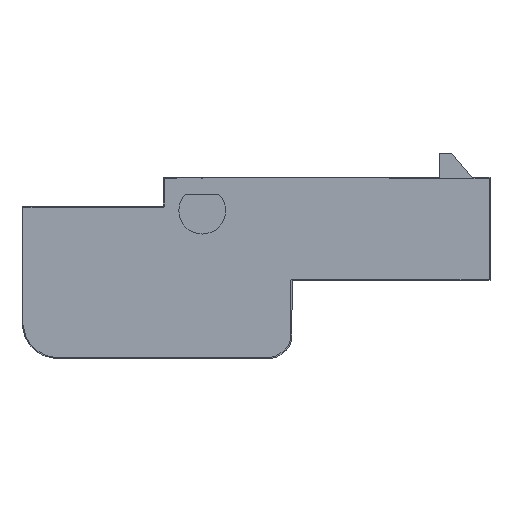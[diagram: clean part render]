
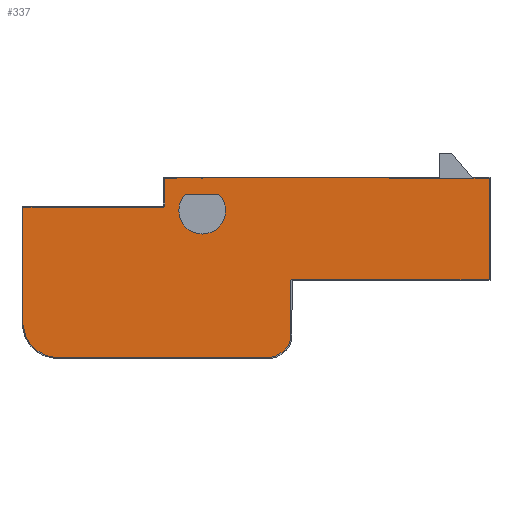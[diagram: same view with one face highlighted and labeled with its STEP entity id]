
A CAD part, front view. The second image highlights one B-rep face of the part: STEP entity #337.
In plain terms, the highlighted planar face has unit normal (0, -1, 0).
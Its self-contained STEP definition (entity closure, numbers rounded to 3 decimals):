
#19=DIRECTION('',(-1.0,0.0,0.0));
#20=VECTOR('',#19,13.52);
#21=CARTESIAN_POINT('',(3.95,-10.375,-30.25));
#22=LINE('',#21,#20);
#23=VERTEX_POINT('',#21);
#24=CARTESIAN_POINT('',(-9.57,-10.375,-30.25));
#25=VERTEX_POINT('',#24);
#26=EDGE_CURVE('',#23,#25,#22,.T.);
#27=ORIENTED_EDGE('',*,*,#26,.T.);
#28=DIRECTION('',(0.0,0.0,-1.0));
#29=VECTOR('',#28,1.16);
#30=LINE('',#24,#29);
#31=CARTESIAN_POINT('',(-9.57,-10.375,-31.41));
#32=VERTEX_POINT('',#31);
#33=EDGE_CURVE('',#25,#32,#30,.T.);
#34=ORIENTED_EDGE('',*,*,#33,.T.);
#35=DIRECTION('',(-0.707,0.0,-0.707));
#36=VECTOR('',#35,0.057);
#37=LINE('',#31,#36);
#38=CARTESIAN_POINT('',(-9.61,-10.375,-31.45));
#39=VERTEX_POINT('',#38);
#40=EDGE_CURVE('',#32,#39,#37,.T.);
#41=ORIENTED_EDGE('',*,*,#40,.T.);
#42=VECTOR('',#19,5.86);
#43=LINE('',#38,#42);
#44=CARTESIAN_POINT('',(-15.47,-10.375,-31.45));
#45=VERTEX_POINT('',#44);
#46=EDGE_CURVE('',#39,#45,#43,.T.);
#47=ORIENTED_EDGE('',*,*,#46,.T.);
#48=VECTOR('',#28,4.88);
#49=LINE('',#44,#48);
#50=CARTESIAN_POINT('',(-15.47,-10.375,-36.33));
#51=VERTEX_POINT('',#50);
#52=EDGE_CURVE('',#45,#51,#49,.T.);
#53=ORIENTED_EDGE('',*,*,#52,.T.);
#54=DIRECTION('',(0.233,0.0,-0.972));
#55=VECTOR('',#54,0.514);
#56=LINE('',#50,#55);
#57=CARTESIAN_POINT('',(-15.35,-10.375,-36.83));
#58=VERTEX_POINT('',#57);
#59=EDGE_CURVE('',#51,#58,#56,.T.);
#60=ORIENTED_EDGE('',*,*,#59,.T.);
#61=DIRECTION('',(0.471,0.0,-0.882));
#62=VECTOR('',#61,0.34);
#63=LINE('',#57,#62);
#64=CARTESIAN_POINT('',(-15.19,-10.375,-37.13));
#65=VERTEX_POINT('',#64);
#66=EDGE_CURVE('',#58,#65,#63,.T.);
#67=ORIENTED_EDGE('',*,*,#66,.T.);
#68=DIRECTION('',(0.707,0.0,-0.707));
#69=VECTOR('',#68,0.424);
#70=LINE('',#64,#69);
#71=CARTESIAN_POINT('',(-14.89,-10.375,-37.43));
#72=VERTEX_POINT('',#71);
#73=EDGE_CURVE('',#65,#72,#70,.T.);
#74=ORIENTED_EDGE('',*,*,#73,.T.);
#75=DIRECTION('',(0.874,0.0,-0.486));
#76=VECTOR('',#75,0.412);
#77=LINE('',#71,#76);
#78=CARTESIAN_POINT('',(-14.53,-10.375,-37.63));
#79=VERTEX_POINT('',#78);
#80=EDGE_CURVE('',#72,#79,#77,.T.);
#81=ORIENTED_EDGE('',*,*,#80,.T.);
#82=DIRECTION('',(0.977,0.0,-0.212));
#83=VECTOR('',#82,0.471);
#84=LINE('',#78,#83);
#85=CARTESIAN_POINT('',(-14.07,-10.375,-37.73));
#86=VERTEX_POINT('',#85);
#87=EDGE_CURVE('',#79,#86,#84,.T.);
#88=ORIENTED_EDGE('',*,*,#87,.T.);
#89=DIRECTION('',(1.0,0.0,0.0));
#90=VECTOR('',#89,8.84);
#91=LINE('',#85,#90);
#92=CARTESIAN_POINT('',(-5.23,-10.375,-37.73));
#93=VERTEX_POINT('',#92);
#94=EDGE_CURVE('',#86,#93,#91,.T.);
#95=ORIENTED_EDGE('',*,*,#94,.T.);
#96=DIRECTION('',(0.981,0.0,0.196));
#97=VECTOR('',#96,0.306);
#98=LINE('',#92,#97);
#99=CARTESIAN_POINT('',(-4.93,-10.375,-37.67));
#100=VERTEX_POINT('',#99);
#101=EDGE_CURVE('',#93,#100,#98,.T.);
#102=ORIENTED_EDGE('',*,*,#101,.T.);
#103=DIRECTION('',(0.825,0.0,0.565));
#104=VECTOR('',#103,0.46);
#105=LINE('',#99,#104);
#106=CARTESIAN_POINT('',(-4.55,-10.375,-37.41));
#107=VERTEX_POINT('',#106);
#108=EDGE_CURVE('',#100,#107,#105,.T.);
#109=ORIENTED_EDGE('',*,*,#108,.T.);
#110=DIRECTION('',(0.614,0.0,0.789));
#111=VECTOR('',#110,0.228);
#112=LINE('',#106,#111);
#113=CARTESIAN_POINT('',(-4.41,-10.375,-37.23));
#114=VERTEX_POINT('',#113);
#115=EDGE_CURVE('',#107,#114,#112,.T.);
#116=ORIENTED_EDGE('',*,*,#115,.T.);
#117=DIRECTION('',(0.316,0.0,0.949));
#118=VECTOR('',#117,0.316);
#119=LINE('',#113,#118);
#120=CARTESIAN_POINT('',(-4.31,-10.375,-36.93));
#121=VERTEX_POINT('',#120);
#122=EDGE_CURVE('',#114,#121,#119,.T.);
#123=ORIENTED_EDGE('',*,*,#122,.T.);
#124=DIRECTION('',(0.0,0.0,1.0));
#125=VECTOR('',#124,2.42);
#126=LINE('',#120,#125);
#127=CARTESIAN_POINT('',(-4.31,-10.375,-34.51));
#128=VERTEX_POINT('',#127);
#129=EDGE_CURVE('',#121,#128,#126,.T.);
#130=ORIENTED_EDGE('',*,*,#129,.T.);
#131=DIRECTION('',(0.707,0.0,0.707));
#132=VECTOR('',#131,0.057);
#133=LINE('',#127,#132);
#134=CARTESIAN_POINT('',(-4.27,-10.375,-34.47));
#135=VERTEX_POINT('',#134);
#136=EDGE_CURVE('',#128,#135,#133,.T.);
#137=ORIENTED_EDGE('',*,*,#136,.T.);
#138=VECTOR('',#89,8.22);
#139=LINE('',#134,#138);
#140=CARTESIAN_POINT('',(3.95,-10.375,-34.47));
#141=VERTEX_POINT('',#140);
#142=EDGE_CURVE('',#135,#141,#139,.T.);
#143=ORIENTED_EDGE('',*,*,#142,.T.);
#144=VECTOR('',#28,4.22);
#145=LINE('',#21,#144);
#146=EDGE_CURVE('',#23,#141,#145,.T.);
#147=ORIENTED_EDGE('',*,*,#146,.F.);
#148=EDGE_LOOP('',(#27,#34,#41,#47,#53,#60,#67,#74,#81,#88,#95,#102,#109,#116,#123,#130,#137,#143,#147));
#149=FACE_OUTER_BOUND('',#148,.T.);
#150=DIRECTION('',(0.634,0.0,-0.773));
#151=VECTOR('',#150,0.191);
#152=CARTESIAN_POINT('',(-7.311,-10.375,-30.911));
#153=LINE('',#152,#151);
#154=VERTEX_POINT('',#152);
#155=CARTESIAN_POINT('',(-7.189,-10.375,-31.058));
#156=VERTEX_POINT('',#155);
#157=EDGE_CURVE('',#154,#156,#153,.T.);
#158=ORIENTED_EDGE('',*,*,#157,.T.);
#159=DIRECTION('',(0.471,0.0,-0.882));
#160=VECTOR('',#159,0.191);
#161=LINE('',#155,#160);
#162=CARTESIAN_POINT('',(-7.099,-10.375,-31.227));
#163=VERTEX_POINT('',#162);
#164=EDGE_CURVE('',#156,#163,#161,.T.);
#165=ORIENTED_EDGE('',*,*,#164,.T.);
#166=DIRECTION('',(0.29,0.0,-0.957));
#167=VECTOR('',#166,0.191);
#168=LINE('',#162,#167);
#169=CARTESIAN_POINT('',(-7.044,-10.375,-31.41));
#170=VERTEX_POINT('',#169);
#171=EDGE_CURVE('',#163,#170,#168,.T.);
#172=ORIENTED_EDGE('',*,*,#171,.T.);
#173=DIRECTION('',(0.098,0.0,-0.995));
#174=VECTOR('',#173,0.191);
#175=LINE('',#169,#174);
#176=CARTESIAN_POINT('',(-7.025,-10.375,-31.6));
#177=VERTEX_POINT('',#176);
#178=EDGE_CURVE('',#170,#177,#175,.T.);
#179=ORIENTED_EDGE('',*,*,#178,.T.);
#180=DIRECTION('',(-0.098,0.0,-0.995));
#181=VECTOR('',#180,0.191);
#182=LINE('',#176,#181);
#183=CARTESIAN_POINT('',(-7.044,-10.375,-31.79));
#184=VERTEX_POINT('',#183);
#185=EDGE_CURVE('',#177,#184,#182,.T.);
#186=ORIENTED_EDGE('',*,*,#185,.T.);
#187=DIRECTION('',(-0.29,0.0,-0.957));
#188=VECTOR('',#187,0.191);
#189=LINE('',#183,#188);
#190=CARTESIAN_POINT('',(-7.099,-10.375,-31.973));
#191=VERTEX_POINT('',#190);
#192=EDGE_CURVE('',#184,#191,#189,.T.);
#193=ORIENTED_EDGE('',*,*,#192,.T.);
#194=DIRECTION('',(-0.471,0.0,-0.882));
#195=VECTOR('',#194,0.191);
#196=LINE('',#190,#195);
#197=CARTESIAN_POINT('',(-7.189,-10.375,-32.142));
#198=VERTEX_POINT('',#197);
#199=EDGE_CURVE('',#191,#198,#196,.T.);
#200=ORIENTED_EDGE('',*,*,#199,.T.);
#201=DIRECTION('',(-0.634,0.0,-0.773));
#202=VECTOR('',#201,0.191);
#203=LINE('',#197,#202);
#204=CARTESIAN_POINT('',(-7.311,-10.375,-32.289));
#205=VERTEX_POINT('',#204);
#206=EDGE_CURVE('',#198,#205,#203,.T.);
#207=ORIENTED_EDGE('',*,*,#206,.T.);
#208=DIRECTION('',(-0.773,0.0,-0.634));
#209=VECTOR('',#208,0.191);
#210=LINE('',#204,#209);
#211=CARTESIAN_POINT('',(-7.458,-10.375,-32.411));
#212=VERTEX_POINT('',#211);
#213=EDGE_CURVE('',#205,#212,#210,.T.);
#214=ORIENTED_EDGE('',*,*,#213,.T.);
#215=DIRECTION('',(-0.882,0.0,-0.471));
#216=VECTOR('',#215,0.191);
#217=LINE('',#211,#216);
#218=CARTESIAN_POINT('',(-7.627,-10.375,-32.501));
#219=VERTEX_POINT('',#218);
#220=EDGE_CURVE('',#212,#219,#217,.T.);
#221=ORIENTED_EDGE('',*,*,#220,.T.);
#222=DIRECTION('',(-0.957,0.0,-0.29));
#223=VECTOR('',#222,0.191);
#224=LINE('',#218,#223);
#225=CARTESIAN_POINT('',(-7.81,-10.375,-32.556));
#226=VERTEX_POINT('',#225);
#227=EDGE_CURVE('',#219,#226,#224,.T.);
#228=ORIENTED_EDGE('',*,*,#227,.T.);
#229=DIRECTION('',(-0.995,0.0,-0.098));
#230=VECTOR('',#229,0.191);
#231=LINE('',#225,#230);
#232=CARTESIAN_POINT('',(-8.0,-10.375,-32.575));
#233=VERTEX_POINT('',#232);
#234=EDGE_CURVE('',#226,#233,#231,.T.);
#235=ORIENTED_EDGE('',*,*,#234,.T.);
#236=DIRECTION('',(-0.995,0.0,0.098));
#237=VECTOR('',#236,0.191);
#238=LINE('',#232,#237);
#239=CARTESIAN_POINT('',(-8.19,-10.375,-32.556));
#240=VERTEX_POINT('',#239);
#241=EDGE_CURVE('',#233,#240,#238,.T.);
#242=ORIENTED_EDGE('',*,*,#241,.T.);
#243=DIRECTION('',(-0.957,0.0,0.29));
#244=VECTOR('',#243,0.191);
#245=LINE('',#239,#244);
#246=CARTESIAN_POINT('',(-8.373,-10.375,-32.501));
#247=VERTEX_POINT('',#246);
#248=EDGE_CURVE('',#240,#247,#245,.T.);
#249=ORIENTED_EDGE('',*,*,#248,.T.);
#250=DIRECTION('',(-0.882,0.0,0.471));
#251=VECTOR('',#250,0.191);
#252=LINE('',#246,#251);
#253=CARTESIAN_POINT('',(-8.542,-10.375,-32.411));
#254=VERTEX_POINT('',#253);
#255=EDGE_CURVE('',#247,#254,#252,.T.);
#256=ORIENTED_EDGE('',*,*,#255,.T.);
#257=DIRECTION('',(-0.773,0.0,0.634));
#258=VECTOR('',#257,0.191);
#259=LINE('',#253,#258);
#260=CARTESIAN_POINT('',(-8.689,-10.375,-32.289));
#261=VERTEX_POINT('',#260);
#262=EDGE_CURVE('',#254,#261,#259,.T.);
#263=ORIENTED_EDGE('',*,*,#262,.T.);
#264=DIRECTION('',(-0.634,0.0,0.773));
#265=VECTOR('',#264,0.191);
#266=LINE('',#260,#265);
#267=CARTESIAN_POINT('',(-8.811,-10.375,-32.142));
#268=VERTEX_POINT('',#267);
#269=EDGE_CURVE('',#261,#268,#266,.T.);
#270=ORIENTED_EDGE('',*,*,#269,.T.);
#271=DIRECTION('',(-0.471,0.0,0.882));
#272=VECTOR('',#271,0.191);
#273=LINE('',#267,#272);
#274=CARTESIAN_POINT('',(-8.901,-10.375,-31.973));
#275=VERTEX_POINT('',#274);
#276=EDGE_CURVE('',#268,#275,#273,.T.);
#277=ORIENTED_EDGE('',*,*,#276,.T.);
#278=DIRECTION('',(-0.29,0.0,0.957));
#279=VECTOR('',#278,0.191);
#280=LINE('',#274,#279);
#281=CARTESIAN_POINT('',(-8.956,-10.375,-31.79));
#282=VERTEX_POINT('',#281);
#283=EDGE_CURVE('',#275,#282,#280,.T.);
#284=ORIENTED_EDGE('',*,*,#283,.T.);
#285=DIRECTION('',(-0.098,0.0,0.995));
#286=VECTOR('',#285,0.191);
#287=LINE('',#281,#286);
#288=CARTESIAN_POINT('',(-8.975,-10.375,-31.6));
#289=VERTEX_POINT('',#288);
#290=EDGE_CURVE('',#282,#289,#287,.T.);
#291=ORIENTED_EDGE('',*,*,#290,.T.);
#292=DIRECTION('',(0.098,0.0,0.995));
#293=VECTOR('',#292,0.191);
#294=LINE('',#288,#293);
#295=CARTESIAN_POINT('',(-8.956,-10.375,-31.41));
#296=VERTEX_POINT('',#295);
#297=EDGE_CURVE('',#289,#296,#294,.T.);
#298=ORIENTED_EDGE('',*,*,#297,.T.);
#299=DIRECTION('',(0.29,0.0,0.957));
#300=VECTOR('',#299,0.191);
#301=LINE('',#295,#300);
#302=CARTESIAN_POINT('',(-8.901,-10.375,-31.227));
#303=VERTEX_POINT('',#302);
#304=EDGE_CURVE('',#296,#303,#301,.T.);
#305=ORIENTED_EDGE('',*,*,#304,.T.);
#306=DIRECTION('',(0.471,0.0,0.882));
#307=VECTOR('',#306,0.191);
#308=LINE('',#302,#307);
#309=CARTESIAN_POINT('',(-8.811,-10.375,-31.058));
#310=VERTEX_POINT('',#309);
#311=EDGE_CURVE('',#303,#310,#308,.T.);
#312=ORIENTED_EDGE('',*,*,#311,.T.);
#313=DIRECTION('',(0.634,0.0,0.773));
#314=VECTOR('',#313,0.191);
#315=LINE('',#309,#314);
#316=CARTESIAN_POINT('',(-8.689,-10.375,-30.911));
#317=VERTEX_POINT('',#316);
#318=EDGE_CURVE('',#310,#317,#315,.T.);
#319=ORIENTED_EDGE('',*,*,#318,.T.);
#320=DIRECTION('',(0.707,0.0,0.707));
#321=VECTOR('',#320,0.975);
#322=LINE('',#316,#321);
#323=CARTESIAN_POINT('',(-8.0,-10.375,-30.221));
#324=VERTEX_POINT('',#323);
#325=EDGE_CURVE('',#317,#324,#322,.T.);
#326=ORIENTED_EDGE('',*,*,#325,.T.);
#327=DIRECTION('',(-0.707,0.0,0.707));
#328=VECTOR('',#327,0.975);
#329=LINE('',#152,#328);
#330=EDGE_CURVE('',#154,#324,#329,.T.);
#331=ORIENTED_EDGE('',*,*,#330,.F.);
#332=EDGE_LOOP('',(#158,#165,#172,#179,#186,#193,#200,#207,#214,#221,#228,#235,#242,#249,#256,#263,#270,#277,#284,#291,#298,#305,#312,#319,#326,#331));
#333=FACE_BOUND('',#332,.T.);
#334=DIRECTION('',(0.0,-1.0,0.0));
#335=AXIS2_PLACEMENT_3D('',#21,#334,#124);
#336=PLANE('',#335);
#337=ADVANCED_FACE('',(#149,#333),#336,.T.);
